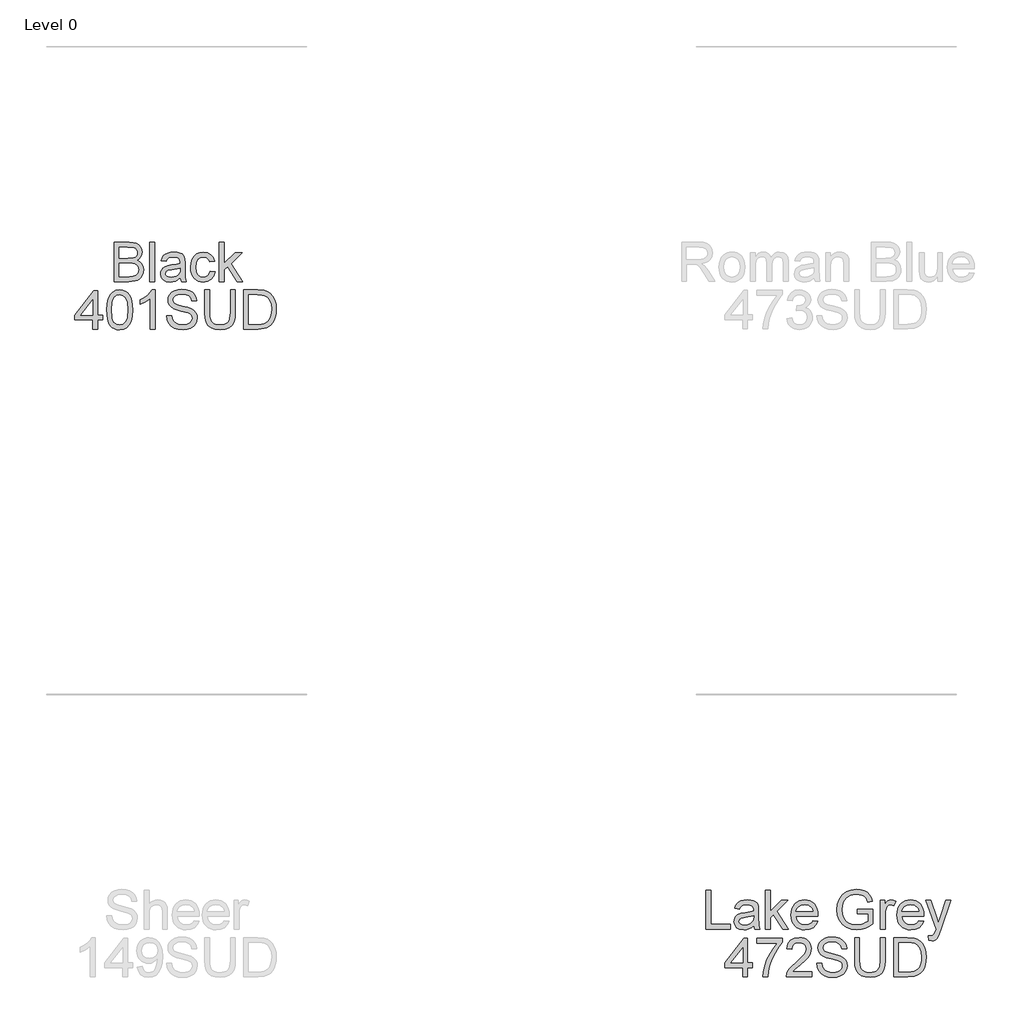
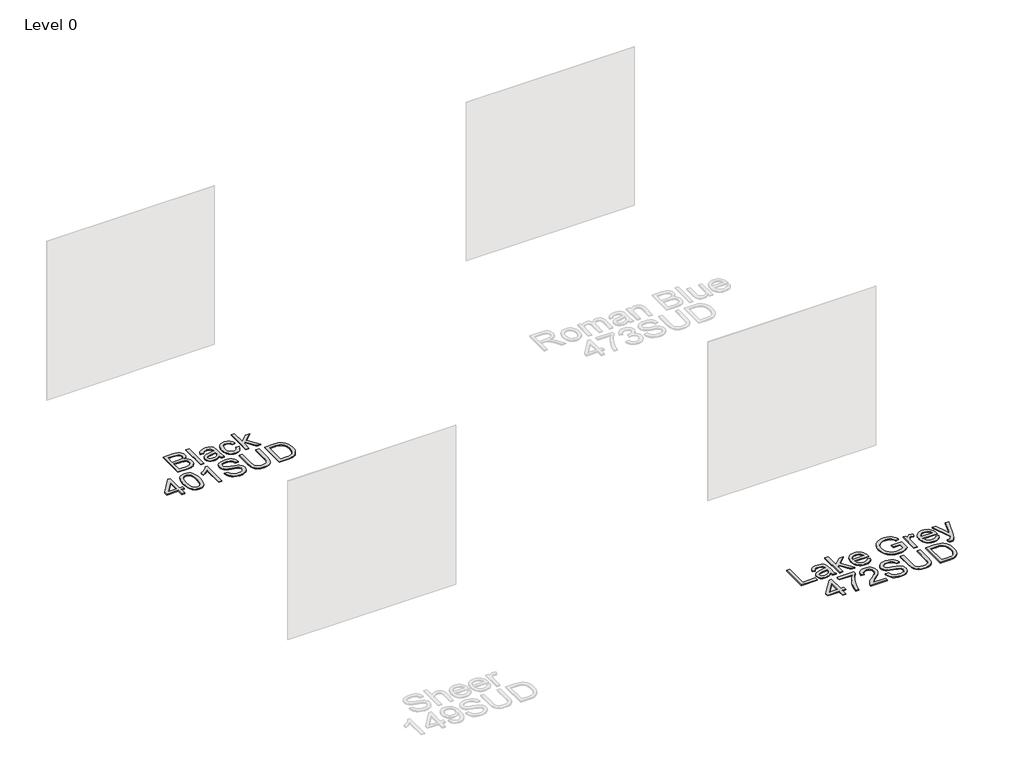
# One storey, part 15 of 37: 2 proxies.
"""IFC4 building model written with IfcOpenShell, lengths in millimetres."""

import ifcopenshell
import ifcopenshell.guid

model = None  # the IFC model being written
_history = None  # IfcOwnerHistory: only IFC2X3 demands one
_inside = {}  # id of a spatial element -> (the spatial element, [elements in it])
_under = {}  # id of a project, library or spatial element -> (it, [spatial elements below it])
_declared = {}  # id of a project -> (the project, [libraries it declares])
_typed = {}  # id of a type object -> (the type object, [elements of that type])
_made_of = {}  # id of a material, layer set ... -> (it, [elements and type objects made of it])


def new_model(schema):
    """Start an empty IFC model of exactly this schema.

    Asked for "IFC4X3", IfcOpenShell would pick the latest addendum, in which some entities
    have other attributes; the version numbers below select the first issue.
    IFC2X3 requires an IfcOwnerHistory on every rooted entity: one is made here for all.
    """
    global model, _history
    if schema == "IFC4X3":
        model = ifcopenshell.file(schema_version=(4, 3, 0, 0))
    else:
        model = ifcopenshell.file(schema=schema)
    _inside.clear()
    _under.clear()
    _declared.clear()
    _typed.clear()
    _made_of.clear()
    _history = None
    if model.schema == "IFC2X3":
        org = make("IfcOrganization", Name="unknown")
        user = make(
            "IfcPersonAndOrganization",
            ThePerson=make("IfcPerson", FamilyName="unknown"),
            TheOrganization=org,
        )
        app = make(
            "IfcApplication",
            ApplicationDeveloper=org,
            Version="unknown",
            ApplicationFullName="unknown",
            ApplicationIdentifier="unknown",
        )
        _history = make(
            "IfcOwnerHistory",
            OwningUser=user,
            OwningApplication=app,
            ChangeAction="ADDED",
            CreationDate=0,
        )
    return model


def make(cls, **values):
    """One entity of the class cls with the attributes given. An attribute that is None is left unset."""
    return model.create_entity(
        cls, **{name: value for name, value in values.items() if value is not None}
    )


def rooted(cls, **values):
    """An entity with a GlobalId (a new one), such as an element, a storey or a relation."""
    return make(cls, GlobalId=ifcopenshell.guid.new(), OwnerHistory=_history, **values)


def si_unit(unit_type, name, prefix=None):
    """IfcSIUnit, for example si_unit("LENGTHUNIT", "METRE", prefix="MILLI")."""
    return make("IfcSIUnit", UnitType=unit_type, Prefix=prefix, Name=name)


def assignment(units):
    """IfcUnitAssignment: the units of a project."""
    return None if units is None else make("IfcUnitAssignment", Units=units)


def point(xyz):
    """IfcCartesianPoint."""
    return None if xyz is None else make("IfcCartesianPoint", Coordinates=xyz)


def direction(xyz):
    """IfcDirection."""
    return None if xyz is None else make("IfcDirection", DirectionRatios=xyz)


def frame(location, z_axis=None, x_axis=None):
    """IfcAxis2Placement3D, a coordinate frame: its origin and axes. An axis left out is left unset."""
    return make(
        "IfcAxis2Placement3D",
        Location=point(location),
        Axis=direction(z_axis),
        RefDirection=direction(x_axis),
    )


def origin():
    """The frame at (0, 0, 0) with its axes left unset."""
    return frame((0.0, 0.0, 0.0))


def origin_with_axes():
    """The frame at (0, 0, 0) with the z axis (0, 0, 1) and the x axis (1, 0, 0) written out."""
    return frame((0.0, 0.0, 0.0), z_axis=(0.0, 0.0, 1.0), x_axis=(1.0, 0.0, 0.0))


def place(relative_to, where):
    """IfcLocalPlacement: puts the frame where relative to a parent placement (None: the world)."""
    return make(
        "IfcLocalPlacement", PlacementRelTo=relative_to, RelativePlacement=where
    )


def context(
    kind, dimensions, precision=None, world=None, true_north=None, identifier=None
):
    """IfcGeometricRepresentationContext, for example the 3D "Model" context."""
    return make(
        "IfcGeometricRepresentationContext",
        ContextIdentifier=identifier,
        ContextType=kind,
        CoordinateSpaceDimension=dimensions,
        Precision=precision,
        WorldCoordinateSystem=world,
        TrueNorth=true_north,
    )


def project(units=None, contexts=None):
    """IfcProject with its units and contexts."""
    return rooted(
        "IfcProject",
        Name="project",
        RepresentationContexts=contexts,
        UnitsInContext=assignment(units),
    )


def spatial(cls, under=None, at=None, **own):
    """A site, building, storey or space (cls), placed at a placement, below another one or the project."""
    s = rooted(cls, ObjectPlacement=at, **own)
    if under is not None:
        _under.setdefault(under.id(), (under, []))[1].append(s)
    return s


def polyline(points):
    """IfcPolyline through the points."""
    return make("IfcPolyline", Points=[point(p) for p in points])


def outline(outer, holes=None, kind="AREA"):
    """IfcArbitraryClosedProfileDef: a profile drawn as a closed curve; with holes, ...WithVoids."""
    if holes is None:
        return make("IfcArbitraryClosedProfileDef", ProfileType=kind, OuterCurve=outer)
    return make(
        "IfcArbitraryProfileDefWithVoids",
        ProfileType=kind,
        OuterCurve=outer,
        InnerCurves=holes,
    )


def extrude(swept, where, along, depth):
    """IfcExtrudedAreaSolid: the profile swept, set in the frame where, extruded along a direction by depth."""
    return make(
        "IfcExtrudedAreaSolid",
        SweptArea=swept,
        Position=where,
        ExtrudedDirection=direction(along),
        Depth=depth,
    )


def shape(context_of_items, identifier, shape_type, items):
    """IfcShapeRepresentation: the items that make up one representation, for example the "Body"."""
    return make(
        "IfcShapeRepresentation",
        ContextOfItems=context_of_items,
        RepresentationIdentifier=identifier,
        RepresentationType=shape_type,
        Items=items,
    )


def made_of(thing, what):
    """Note that an element or type object is made of a material, layer set ...; save() writes the relation."""
    if what is not None:
        _made_of.setdefault(what.id(), (what, []))[1].append(thing)
    return thing


def element(
    cls,
    number,
    at=None,
    inside=None,
    cuts=None,
    type_object=None,
    material=None,
    context=None,
    identifier="Body",
    shape_type=None,
    held_by="IfcProductDefinitionShape",
    body=None,
    shapes=None,
    **own,
):
    """One element of the class cls, such as IfcWall. Its Tag is "e" and its number.

    at: its placement. inside: the storey or other place that contains it. cuts: it is an
    opening in that element (IfcRelVoidsElement). A single representation is given by context,
    identifier, shape_type and body (its items); several are given by shapes. held_by: the class
    of the entity that holds the representations. save() writes the other relations.
    """
    e = rooted(cls, Tag="e%d" % number, ObjectPlacement=at, **own)
    if body is not None:
        shapes = [shape(context, identifier, shape_type, body)]
    if shapes is not None:
        e.Representation = make(held_by, Representations=shapes)
    if inside is not None:
        _inside.setdefault(inside.id(), (inside, []))[1].append(e)
    if cuts is not None:
        rooted(
            "IfcRelVoidsElement", RelatingBuildingElement=cuts, RelatedOpeningElement=e
        )
    if type_object is not None:
        _typed.setdefault(type_object.id(), (type_object, []))[1].append(e)
    return made_of(e, material)


def aggregate(whole, parts):
    """IfcRelAggregates: a whole, such as a stair, and the parts it consists of."""
    return rooted("IfcRelAggregates", RelatingObject=whole, RelatedObjects=parts)


def save(model, path):
    """Write the relations noted so far, then the file.

    IfcRelAggregates (storeys below a building ...), IfcRelContainedInSpatialStructure (elements
    in a storey), IfcRelDefinesByType, IfcRelAssociatesMaterial and IfcRelDeclares: one each for
    every whole, place, type object, material and project.
    """
    for whole, parts in _under.values():
        aggregate(whole, parts)
    for where, things in _inside.values():
        rooted(
            "IfcRelContainedInSpatialStructure",
            RelatedElements=things,
            RelatingStructure=where,
        )
    for kind, things in _typed.values():
        rooted("IfcRelDefinesByType", RelatedObjects=things, RelatingType=kind)
    for what, things in _made_of.values():
        rooted("IfcRelAssociatesMaterial", RelatedObjects=things, RelatingMaterial=what)
    for by, libraries in _declared.values():
        rooted("IfcRelDeclares", RelatingContext=by, RelatedDefinitions=libraries)
    model.write(path)


model = new_model("IFC4")

# Units and contexts
model_context = context("Model", 3, world=origin())
ifc_project = project(units=[si_unit("LENGTHUNIT", "METRE", prefix="MILLI")], contexts=[model_context])

# Site, building, storey
site = spatial("IfcSite", under=ifc_project)
building = spatial("IfcBuilding", under=site)
storey = spatial("IfcBuildingStorey", under=building, Name="Level 0", Elevation=0.0)

# Proxies
placement = place(None, origin())
element("IfcBuildingElementProxy", 1, Name="300mm Arial", ObjectType="300mm Arial", at=placement, inside=storey, context=model_context, shape_type="SweptSolid", body=[
    extrude(outline(polyline([(69.0352108, -41912.860494), (69.0352108, -41611.4915635), (184.0351225, -41611.4915635), (215.663777, -41613.7080526), (240.3578559, -41620.3575196), (259.2853846, -41631.6055116), (273.6143883, -41647.6175755), (282.6366942, -41666.4531336), (285.6441295, -41686.1716086), (283.1149408, -41704.317388), (275.5273747, -41721.3779155), (262.8262488, -41736.3047274), (244.9563809, -41748.0493601), (266.3027337, -41759.1961846), (282.0756742, -41776.1555446), (291.81535, -41797.8054), (295.0619086, -41823.0237108), (292.8454196, -41844.0389697), (286.1959525, -41863.5275184), (276.2723357, -41880.1006023), (264.2333974, -41892.3694668), (249.4905265, -41901.253817), (231.4551117, -41907.6733578), (183.1522057, -41912.860494), (69.0352108, -41912.860494)]), holes=[polyline([(106.7063271, -41733.9226915), (175.5002602, -41733.9226915), (215.6729741, -41730.68533), (229.7352633, -41725.1027207), (239.8428212, -41716.7426024), (245.9404652, -41705.7337336), (247.9730132, -41692.2048733), (246.078421, -41679.071486), (240.3946441, -41667.630356), (231.1792002, -41658.7000206), (218.6896064, -41653.0990172), (170.2763359, -41649.1626798), (106.7063271, -41649.1626798), (106.7063271, -41733.9226915)]), polyline([(106.7063271, -41875.1893777), (183.9615461, -41875.1893777), (211.9205777, -41873.7178497), (235.57539, -41865.5140812), (251.247163, -41848.7754504), (255.854885, -41836.9480443), (257.3907923, -41823.3915928), (255.5881705, -41807.6462434), (250.1803052, -41794.1081859), (240.734935, -41783.5223815), (226.8197985, -41776.6337912), (207.1105206, -41772.8538037), (180.2827261, -41771.5938078), (106.7063271, -41771.5938078), (106.7063271, -41875.1893777)])]), origin_with_axes(), (0.0, 0.0, 1.0), 10.0),
    extrude(outline(polyline([(342.150804, -41912.860494), (342.150804, -41611.4915635), (379.8219203, -41611.4915635), (379.8219203, -41912.860494), (342.150804, -41912.860494)])), origin_with_axes(), (0.0, 0.0, 1.0), 10.0),
    extrude(outline(polyline([(577.5952809, -41884.6071568), (559.5966543, -41900.0398064), (541.0645988, -41910.1381672), (521.5760501, -41915.7115794), (500.7079439, -41917.5693835), (469.2264422, -41913.0996173), (446.0038912, -41899.6903186), (431.6840846, -41879.3280501), (426.9108157, -41853.9993748), (428.7134375, -41838.3827841), (434.1213028, -41824.2009331), (442.463027, -41812.0608273), (453.0672256, -41802.5694718), (479.4443646, -41790.2086368), (512.0387094, -41784.5432541), (550.5559543, -41778.5835657), (577.3745517, -41771.5938078), (577.5952809, -41763.2060983), (575.0017129, -41746.3938912), (567.2210087, -41735.3942195), (549.8201903, -41727.2272392), (525.5767668, -41724.5049125), (503.1359651, -41726.3167313), (487.4641921, -41731.7521878), (476.7772201, -41741.8045633), (469.2908215, -41757.4671392), (431.6197052, -41752.7582497), (438.1588077, -41732.156858), (447.9168776, -41715.9700502), (461.8044229, -41703.590821), (480.7319516, -41694.4121652), (503.8809261, -41688.7283884), (530.4328091, -41686.8337961), (555.8994403, -41688.5076592), (576.0869647, -41693.5292485), (591.3080823, -41701.0800264), (601.8754926, -41710.3414556), (608.8836446, -41721.7917827), (613.4269873, -41735.9092543), (615.2663972, -41768.8714811), (615.2663972, -41815.7396473), (617.1793836, -41881.1858542), (624.6841763, -41912.860494), (587.01306, -41912.860494), (577.5952809, -41884.6071568)]), holes=[polyline([(577.5952809, -41809.2649241), (516.8211753, -41820.8164188), (484.4107715, -41826.9232599), (469.7322799, -41836.8560738), (464.581932, -41851.3506244), (467.3870322, -41862.5526311), (475.8023329, -41871.7312869), (489.6438929, -41877.8565221), (508.7277714, -41879.8982672), (528.9612812, -41877.64499), (546.8403461, -41870.8851583), (561.3348967, -41860.9247533), (571.4148634, -41849.069756), (575.8846296, -41836.8560738), (577.3745517, -41819.933502), (577.5952809, -41809.2649241)])]), origin_with_axes(), (0.0, 0.0, 1.0), 10.0),
    extrude(outline(polyline([(808.3308683, -41832.8093718), (846.0019846, -41837.5182614), (835.4989536, -41871.0231141), (815.7620846, -41896.3425924), (788.6491816, -41912.2626857), (756.0180486, -41917.5693835), (734.8901257, -41915.7184772), (715.9465023, -41910.1657584), (699.1871781, -41900.9112269), (684.6121533, -41887.9548829), (672.8146376, -41871.5404481), (664.3878406, -41851.9116444), (659.3317625, -41829.0684718), (657.6464031, -41803.0109302), (660.5250797, -41769.4876834), (669.1611095, -41740.4342028), (683.6924483, -41716.9725286), (704.2570519, -41700.2247008), (728.8591603, -41690.1815223), (755.5030138, -41686.8337961), (787.3340034, -41691.4323211), (812.7822404, -41705.2278959), (831.0383844, -41727.4847566), (841.2930951, -41757.4671392), (803.6219788, -41762.1760288), (796.7885707, -41745.7409006), (786.147584, -41733.9594797), (772.2876298, -41726.8685543), (755.7973194, -41724.5049125), (731.4527284, -41729.1586197), (712.1297266, -41743.1197414), (699.5205712, -41767.1424357), (695.3175194, -41801.9808606), (699.4286007, -41837.2883351), (711.7618446, -41861.3938029), (730.7353585, -41875.2721511), (754.7672498, -41879.8982672), (774.2741926, -41877.0103936), (790.2678623, -41868.3467726), (801.9021304, -41853.6866751), (808.3308683, -41832.8093718)])), origin_with_axes(), (0.0, 0.0, 1.0), 10.0),
    extrude(outline(polyline([(878.9642114, -41912.860494), (878.9642114, -41611.4915635), (916.6353277, -41611.4915635), (916.6353277, -41773.4332178), (1001.1010338, -41691.5426857), (1053.1931243, -41691.5426857), (967.6973486, -41774.4632874), (1057.9020138, -41912.860494), (1013.9033272, -41912.860494), (940.6948102, -41800.6564855), (916.6353277, -41823.9802039), (916.6353277, -41912.860494), (878.9642114, -41912.860494)])), origin_with_axes(), (0.0, 0.0, 1.0), 10.0),
    extrude(outline(polyline([(-95.775923, -42278.7849475), (-95.775923, -42208.1516044), (-232.3337197, -42208.1516044), (-232.3337197, -42170.4804881), (-86.358144, -41982.1249066), (-58.1048067, -41982.1249066), (-58.1048067, -42170.4804881), (-20.4336904, -42170.4804881), (-20.4336904, -42208.1516044), (-58.1048067, -42208.1516044), (-58.1048067, -42278.7849475), (-95.775923, -42278.7849475)]), holes=[polyline([(-95.775923, -42170.4804881), (-95.775923, -42054.0826249), (-185.9805883, -42170.4804881), (-95.775923, -42170.4804881)])]), origin_with_axes(), (0.0, 0.0, 1.0), 10.0),
    extrude(outline(polyline([(12.5285363, -42130.5285035), (15.2968483, -42082.2899768), (23.6017844, -42043.8187172), (37.360571, -42014.5261133), (56.4904348, -41993.8235541), (81.1293314, -41981.5179013), (111.4152166, -41977.4160171), (134.6285705, -41979.8440382), (155.4139033, -41987.1281017), (172.7963275, -41998.983099), (185.8009561, -42015.1239216), (195.6234053, -42035.4126136), (203.4592918, -42059.7112194), (208.5912457, -42090.5673217), (210.3018969, -42130.5285035), (207.5611761, -42178.4911186), (199.3390135, -42216.8704077), (185.6630003, -42246.1906027), (166.5607277, -42266.9759355), (141.8666488, -42279.3643617), (111.4152166, -42283.4938371), (90.6666721, -42281.7004123), (72.2725723, -42276.3201381), (56.2329174, -42267.3530145), (42.5477071, -42254.7990414), (29.4143199, -42232.1053209), (20.033329, -42203.828991), (14.4047345, -42169.9700519), (12.5285363, -42130.5285035)]), holes=[polyline([(50.1996526, -42130.4549271), (54.6142366, -42189.7115194), (60.1324665, -42209.9795181), (67.8579884, -42224.0073184), (87.5764633, -42240.3688702), (111.4152166, -42245.8227207), (135.2539699, -42240.3504761), (154.9724449, -42223.933742), (162.6979668, -42209.8829491), (168.2161967, -42189.6195489), (172.6307806, -42130.4549271), (168.3633495, -42072.5319069), (163.0290606, -42052.3305869), (155.5610561, -42037.9693935), (135.8793693, -42020.8076984), (110.9737582, -42015.0871334), (87.3925223, -42020.1271167), (68.4465996, -42035.2470667), (60.4635603, -42050.8820515), (54.7613894, -42071.9616898), (50.1996526, -42130.4549271)])]), origin_with_axes(), (0.0, 0.0, 1.0), 10.0),
    extrude(outline(polyline([(384.5308099, -42278.7849475), (346.8596935, -42278.7849475), (346.8596935, -42043.9290818), (311.17514, -42069.3497277), (271.5174609, -42088.3692268), (271.5174609, -42052.7582497), (301.1043704, -42036.6634124), (326.7365484, -42017.5151545), (346.942467, -41997.1528861), (360.2505982, -41977.4160171), (384.5308099, -41977.4160171), (384.5308099, -42278.7849475)])), origin_with_axes(), (0.0, 0.0, 1.0), 10.0),
    extrude(outline(polyline([(473.9997111, -42175.1893777), (511.6708274, -42175.1893777), (515.9934408, -42196.0942721), (523.8109332, -42212.8972822), (536.0062214, -42226.2330045), (553.462222, -42236.7360355), (574.7993778, -42243.5510494), (598.638131, -42245.8227207), (619.6257989, -42244.1028724), (638.0015045, -42238.9433274), (652.8915283, -42230.7763471), (663.4221504, -42220.0341929), (669.6853414, -42207.700949), (671.7730717, -42194.7606998), (670.2095732, -42182.1515444), (665.5190778, -42171.2530403), (655.9909341, -42161.9548229), (639.9144909, -42154.1465276), (585.0632854, -42139.7623415), (549.0568351, -42130.2433949), (526.0182252, -42121.1843008), (507.2654405, -42108.510766), (493.9757034, -42093.1516928), (486.0570435, -42075.4381747), (483.4174902, -42055.7013056), (486.6824429, -42033.637583), (496.477301, -42013.0637824), (512.5445471, -41995.6261758), (534.6266639, -41982.9710352), (561.1325616, -41975.2731044), (590.4711508, -41972.7071275), (622.2561551, -41975.3926661), (650.068034, -41983.4492818), (672.9135059, -41996.7114277), (689.7992895, -42015.013557), (700.4862614, -42037.2152354), (704.7352985, -42062.1760288), (667.0641821, -42062.1760288), (660.1480006, -42039.6984389), (645.7270264, -42023.4748429), (623.1942542, -42013.6523936), (591.9426787, -42010.3782438), (559.9553393, -42013.6156054), (538.0111782, -42023.3276901), (525.3192494, -42037.6199056), (521.0886065, -42054.5976597), (524.0868447, -42069.0738162), (533.0815595, -42080.7172813), (554.3451388, -42091.1283418), (594.5914291, -42101.7601314), (636.1253064, -42111.8584922), (661.2516466, -42120.669266), (682.7267581, -42134.3360821), (697.7087523, -42151.2034716), (706.5103291, -42171.0874934), (709.444188, -42193.8042066), (706.0688707, -42217.0267576), (695.9429188, -42238.869751), (679.4801995, -42257.668521), (657.0945801, -42271.7584014), (630.1748151, -42280.5599781), (600.109659, -42283.4938371), (563.2018979, -42280.3300519), (532.8240421, -42270.8386964), (508.6266039, -42254.9829824), (490.2600953, -42232.7261217), (478.4694773, -42205.6132187), (473.9997111, -42175.1893777)])), origin_with_axes(), (0.0, 0.0, 1.0), 10.0),
    extrude(outline(polyline([(963.7242231, -41977.4160171), (1001.3953394, -41977.4160171), (1001.3953394, -42151.277048), (998.8385595, -42191.9923878), (991.1682199, -42223.3451308), (976.8392162, -42247.533372), (954.306444, -42266.7552063), (923.514721, -42279.3091794), (884.4088649, -42283.4938371), (846.1583345, -42279.8518053), (815.5781436, -42268.92571), (792.6590953, -42251.0926303), (777.3919925, -42226.7296452), (768.811145, -42194.052527), (765.9508625, -42151.277048), (765.9508625, -41977.4160171), (803.6219788, -41977.4160171), (803.6219788, -42149.9526728), (805.4797828, -42183.8070134), (811.0531951, -42207.3790523), (821.1515558, -42223.7038158), (836.5842055, -42235.8163305), (856.7073507, -42243.3211232), (880.8771977, -42245.8227207), (919.1921075, -42240.8747079), (933.5349068, -42234.6896919), (944.6679357, -42226.0306694), (953.0050614, -42213.8537754), (958.9601512, -42197.1151446), (963.7242231, -42149.9526728), (963.7242231, -41977.4160171)])), origin_with_axes(), (0.0, 0.0, 1.0), 10.0),
    extrude(outline(polyline([(1067.3197929, -42278.7849475), (1067.3197929, -41977.4160171), (1171.2832447, -41977.4160171), (1225.0675924, -41981.7570246), (1249.0902867, -41990.12634), (1269.3605847, -42003.3149095), (1290.2010997, -42026.270746), (1305.0451382, -42054.8183889), (1313.9294884, -42088.406015), (1316.8909384, -42126.4818015), (1314.8859816, -42158.8278259), (1308.8711109, -42187.2926953), (1299.7108493, -42211.5269217), (1288.2697192, -42231.1810173), (1275.0995438, -42246.6964405), (1260.752146, -42258.5146496), (1244.2802296, -42267.2794381), (1224.7364986, -42273.6345996), (1176.2864399, -42278.7849475), (1067.3197929, -42278.7849475)]), holes=[polyline([(1104.9909092, -42241.1138312), (1171.6511267, -42241.1138312), (1199.2238823, -42239.7526678), (1220.1379737, -42235.6691777), (1235.9201113, -42229.1024841), (1248.0970053, -42220.2917103), (1261.1844073, -42203.9853408), (1271.0160536, -42182.8781114), (1277.16888, -42156.8780514), (1279.2198221, -42125.8931903), (1275.2007113, -42084.8375597), (1263.1433789, -42054.5240833), (1245.3286933, -42033.7019623), (1224.0375228, -42021.1203981), (1202.3692733, -42016.5954496), (1170.6210571, -42015.0871334), (1104.9909092, -42015.0871334), (1104.9909092, -42241.1138312)])]), origin_with_axes(), (0.0, 0.0, 1.0), 10.0),
])
element("IfcBuildingElementProxy", 2, Name="300mm Arial", ObjectType="300mm Arial", at=placement, inside=storey, context=model_context, shape_type="SweptSolid", body=[
    extrude(outline(polyline([(4621.6907047, -46892.860494), (4621.6907047, -46591.4915635), (4659.361821, -46591.4915635), (4659.361821, -46855.1893777), (4810.0462862, -46855.1893777), (4810.0462862, -46892.860494), (4621.6907047, -46892.860494)])), origin_with_axes(), (0.0, 0.0, 1.0), 10.0),
    extrude(outline(polyline([(4988.9840886, -46864.6071568), (4970.985462, -46880.0398064), (4952.4534065, -46890.1381672), (4932.9648578, -46895.7115794), (4912.0967516, -46897.5693835), (4880.6152499, -46893.0996173), (4857.392699, -46879.6903186), (4843.0728923, -46859.3280501), (4838.2996234, -46833.9993748), (4840.1022452, -46818.3827841), (4845.5101105, -46804.2009331), (4853.8518348, -46792.0608273), (4864.4560333, -46782.5694718), (4890.8331723, -46770.2086368), (4923.4275171, -46764.5432541), (4961.944762, -46758.5835657), (4988.7633594, -46751.5938078), (4988.9840886, -46743.2060983), (4986.3905206, -46726.3938912), (4978.6098164, -46715.3942195), (4961.208998, -46707.2272392), (4936.9655745, -46704.5049125), (4914.5247728, -46706.3167313), (4898.8529998, -46711.7521878), (4888.1660279, -46721.8045633), (4880.6796293, -46737.4671392), (4843.008513, -46732.7582497), (4849.5476154, -46712.1568579), (4859.3056853, -46695.9700502), (4873.1932307, -46683.590821), (4892.1207593, -46674.4121652), (4915.2697339, -46668.7283884), (4941.8216169, -46666.8337961), (4967.288248, -46668.5076592), (4987.4757725, -46673.5292485), (5002.69689, -46681.0800264), (5013.2643003, -46690.3414556), (5020.2724523, -46701.7917827), (5024.815795, -46715.9092543), (5026.6552049, -46748.8714811), (5026.6552049, -46795.7396473), (5028.5681913, -46861.1858542), (5036.072984, -46892.860494), (4998.4018677, -46892.860494), (4988.9840886, -46864.6071568)]), holes=[polyline([(4988.9840886, -46789.2649241), (4928.209983, -46800.8164188), (4895.7995793, -46806.9232599), (4881.1210877, -46816.8560738), (4875.9707397, -46831.3506244), (4878.7758399, -46842.5526311), (4887.1911406, -46851.7312869), (4901.0327006, -46857.8565221), (4920.1165791, -46859.8982672), (4940.3500889, -46857.64499), (4958.2291538, -46850.8851583), (4972.7237045, -46840.9247533), (4982.8036711, -46829.069756), (4987.2734374, -46816.8560738), (4988.7633594, -46799.933502), (4988.9840886, -46789.2649241)])]), origin_with_axes(), (0.0, 0.0, 1.0), 10.0),
    extrude(outline(polyline([(5078.4529899, -46892.860494), (5078.4529899, -46591.4915635), (5116.1241062, -46591.4915635), (5116.1241062, -46753.4332178), (5200.5898123, -46671.5426857), (5252.6819028, -46671.5426857), (5167.1861271, -46754.4632874), (5257.3907923, -46892.860494), (5213.3921057, -46892.860494), (5140.1835887, -46780.6564855), (5116.1241062, -46803.9802039), (5116.1241062, -46892.860494), (5078.4529899, -46892.860494)])), origin_with_axes(), (0.0, 0.0, 1.0), 10.0),
    extrude(outline(polyline([(5445.3049155, -46826.9360404), (5482.2402678, -46831.64493), (5468.9321366, -46859.4752029), (5447.6961484, -46880.2789297), (5419.0105499, -46893.2467701), (5383.3535875, -46897.5693835), (5359.9792852, -46895.7046817), (5339.1525657, -46890.1105761), (5320.8734291, -46880.7870668), (5305.1418753, -46867.7341537), (5292.4913332, -46851.3151204), (5283.4552317, -46831.8932503), (5278.0335708, -46809.4685435), (5276.2263505, -46784.0409998), (5278.0519649, -46757.7512327), (5283.5288081, -46734.5792656), (5292.6568801, -46714.5250983), (5305.4361809, -46697.5887309), (5321.126348, -46684.133447), (5338.9870189, -46674.5225298), (5359.0181935, -46668.7559796), (5381.2198719, -46666.8337961), (5402.7064797, -46668.751381), (5422.1375468, -46674.5041357), (5439.5130733, -46684.0920602), (5454.8330591, -46697.5151545), (5467.3387477, -46714.4147337), (5476.2713824, -46734.4321128), (5481.6309632, -46757.5672917), (5483.4174902, -46783.8202706), (5483.196761, -46793.9738137), (5313.8974668, -46793.9738137), (5320.4181751, -46822.1719686), (5335.5657163, -46842.902119), (5357.4271039, -46855.6492302), (5384.0893515, -46859.8982672), (5404.1389202, -46857.9300985), (5421.0247038, -46852.0255925), (5434.7467022, -46841.8168671), (5445.3049155, -46826.9360404)]), holes=[polyline([(5313.8974668, -46756.3026974), (5445.7463739, -46756.3026974), (5440.6512082, -46736.4002814), (5430.663212, -46722.1632482), (5408.7006569, -46708.9194964), (5381.0727191, -46704.5049125), (5355.6796644, -46708.0273826), (5334.6827995, -46718.5947929), (5320.0870813, -46735.0667092), (5313.8974668, -46756.3026974)])]), origin_with_axes(), (0.0, 0.0, 1.0), 10.0),
    extrude(outline(polyline([(5784.7864206, -46775.1382555), (5784.7864206, -46737.4671392), (5907.2175486, -46737.4671392), (5907.2175486, -46850.1126061), (5877.4650922, -46870.8059684), (5846.7745368, -46885.6500069), (5815.2194587, -46894.5895394), (5782.8734342, -46897.5693835), (5740.61299, -46892.8329028), (5702.4176419, -46878.6234608), (5670.6878198, -46855.437698), (5647.8239538, -46823.7722553), (5634.0007878, -46785.7884393), (5629.3930658, -46743.6475567), (5633.9823937, -46701.2031715), (5647.7503774, -46661.7202364), (5670.1267998, -46628.6016598), (5700.5414437, -46605.2503502), (5737.5871606, -46591.399593), (5779.8568019, -46586.782674), (5810.8876482, -46589.4590155), (5838.7914975, -46597.4880401), (5862.2899599, -46610.2903335), (5880.1046456, -46627.2864817), (5893.284018, -46649.295022), (5902.8765411, -46677.134492), (5868.1484807, -46686.9201531), (5860.3953677, -46667.0637224), (5850.9683915, -46652.0817281), (5838.4971919, -46640.7877509), (5821.6114083, -46631.9953712), (5801.4790661, -46626.3391855), (5779.2681907, -46624.4537903), (5753.2681307, -46626.4863383), (5731.0388611, -46632.5839824), (5712.6631555, -46641.9833674), (5698.2237871, -46653.9211381), (5678.836406, -46682.9470275), (5670.0072381, -46711.3843058), (5667.0641821, -46742.1024524), (5670.6050464, -46778.1272967), (5681.227639, -46807.7693885), (5698.6100632, -46830.8171955), (5722.4304224, -46847.0591856), (5750.3066806, -46856.6884968), (5779.8568019, -46859.8982672), (5805.9488324, -46857.4794431), (5831.3970694, -46850.2229707), (5853.4975803, -46840.2257775), (5869.5464323, -46829.5847908), (5869.5464323, -46775.1382555), (5784.7864206, -46775.1382555)])), origin_with_axes(), (0.0, 0.0, 1.0), 10.0),
    extrude(outline(polyline([(5963.7242231, -46892.860494), (5963.7242231, -46671.5426857), (5996.6864498, -46671.5426857), (5996.6864498, -46704.2841833), (6008.8633439, -46685.3014723), (6020.0837447, -46674.1178596), (6031.3409338, -46668.654812), (6043.6281924, -46666.8337961), (6062.3901742, -46669.7400639), (6081.4464615, -46678.4588672), (6068.8648973, -46712.2304343), (6055.6211455, -46706.4362929), (6042.3773936, -46704.5049125), (6031.1294016, -46706.3627165), (6021.0770261, -46711.9361288), (6012.9560311, -46720.8020848), (6007.5021805, -46732.5375205), (6002.9220496, -46753.5803706), (6001.3953394, -46776.5362071), (6001.3953394, -46892.860494), (5963.7242231, -46892.860494)])), origin_with_axes(), (0.0, 0.0, 1.0), 10.0),
    extrude(outline(polyline([(6259.9428056, -46826.9360404), (6296.8781579, -46831.64493), (6283.5700267, -46859.4752029), (6262.3340385, -46880.2789297), (6233.64844, -46893.2467701), (6197.9914776, -46897.5693835), (6174.6171753, -46895.7046817), (6153.7904559, -46890.1105761), (6135.5113192, -46880.7870668), (6119.7797654, -46867.7341537), (6107.1292233, -46851.3151204), (6098.0931218, -46831.8932503), (6092.6714609, -46809.4685435), (6090.8642406, -46784.0409998), (6092.689855, -46757.7512327), (6098.1666982, -46734.5792656), (6107.2947702, -46714.5250983), (6120.074071, -46697.5887309), (6135.7642381, -46684.133447), (6153.624909, -46674.5225298), (6173.6560836, -46668.7559796), (6195.857762, -46666.8337961), (6217.3443698, -46668.751381), (6236.7754369, -46674.5041357), (6254.1509634, -46684.0920602), (6269.4709493, -46697.5151545), (6281.9766378, -46714.4147337), (6290.9092725, -46734.4321128), (6296.2688533, -46757.5672917), (6298.0553803, -46783.8202706), (6297.8346511, -46793.9738137), (6128.5353569, -46793.9738137), (6135.0560653, -46822.1719686), (6150.2036064, -46842.902119), (6172.064994, -46855.6492302), (6198.7272416, -46859.8982672), (6218.7768103, -46857.9300985), (6235.6625939, -46852.0255925), (6249.3845923, -46841.8168671), (6259.9428056, -46826.9360404)]), holes=[polyline([(6128.5353569, -46756.3026974), (6260.384264, -46756.3026974), (6255.2890983, -46736.4002814), (6245.3011022, -46722.1632482), (6223.3385471, -46708.9194964), (6195.7106092, -46704.5049125), (6170.3175545, -46708.0273826), (6149.3206896, -46718.5947929), (6134.7249715, -46735.0667092), (6128.5353569, -46756.3026974)])]), origin_with_axes(), (0.0, 0.0, 1.0), 10.0),
    extrude(outline(polyline([(6335.7264966, -46977.6205057), (6331.017607, -46941.3473409), (6350.1474708, -46944.6582789), (6368.0265358, -46940.5012124), (6378.9894192, -46928.9129295), (6389.2901151, -46901.1746271), (6392.233171, -46892.0511536), (6312.1820489, -46671.5426857), (6351.9133044, -46671.5426857), (6394.3668866, -46794.4152721), (6409.1557428, -46843.5643066), (6423.944599, -46800.1542312), (6467.5754037, -46671.5426857), (6507.0123535, -46671.5426857), (6429.9778637, -46898.1579947), (6409.9650832, -46947.3070293), (6399.7195696, -46962.9971964), (6388.1128927, -46973.8681093), (6374.6300176, -46980.2140737), (6358.7559095, -46982.3293952), (6335.7264966, -46977.6205057)])), origin_with_axes(), (0.0, 0.0, 1.0), 10.0),
    extrude(outline(polyline([(4904.224077, -47258.7849475), (4904.224077, -47188.1516044), (4767.6662803, -47188.1516044), (4767.6662803, -47150.4804881), (4913.641856, -46962.1249066), (4941.8951933, -46962.1249066), (4941.8951933, -47150.4804881), (4979.5663096, -47150.4804881), (4979.5663096, -47188.1516044), (4941.8951933, -47188.1516044), (4941.8951933, -47258.7849475), (4904.224077, -47258.7849475)]), holes=[polyline([(4904.224077, -47150.4804881), (4904.224077, -47034.0826249), (4814.0194117, -47150.4804881), (4904.224077, -47150.4804881)])]), origin_with_axes(), (0.0, 0.0, 1.0), 10.0),
    extrude(outline(polyline([(5012.5285363, -46999.7960229), (5012.5285363, -46962.1249066), (5210.3018969, -46962.1249066), (5210.3018969, -46992.5855358), (5182.1129391, -47028.2608923), (5154.1998927, -47073.6299393), (5129.5793901, -47124.5540045), (5111.2680638, -47176.8944154), (5102.2917432, -47216.0554538), (5097.288548, -47258.7849475), (5059.6174317, -47258.7849475), (5063.6917248, -47219.9550029), (5074.5902289, -47173.8042066), (5092.0186384, -47124.8850983), (5115.6826478, -47077.7502177), (5143.3105856, -47035.1402856), (5172.6307806, -46999.7960229), (5012.5285363, -46999.7960229)])), origin_with_axes(), (0.0, 0.0, 1.0), 10.0),
    extrude(outline(polyline([(5436.3285948, -47221.1138312), (5436.3285948, -47258.7849475), (5238.5552342, -47258.7849475), (5242.6019361, -47232.8124787), (5251.8909565, -47212.5145896), (5265.4841962, -47192.8237058), (5285.1474889, -47172.213117), (5312.646668, -47149.156113), (5353.2976285, -47113.0484951), (5377.6882047, -47086.3954446), (5389.8834929, -47064.7639833), (5393.9485889, -47043.7211331), (5390.1134191, -47024.8579838), (5378.6079097, -47009.1770138), (5360.9219828, -46998.6096035), (5338.5455605, -46995.0871334), (5315.047098, -46998.52683), (5296.790954, -47008.84592), (5285.0095331, -47025.2350629), (5280.93524, -47046.8849183), (5243.2641237, -47042.1760288), (5252.3967942, -47005.7373171), (5260.9431528, -46991.2013798), (5272.1428603, -46979.1210548), (5285.7383993, -46969.6251008), (5301.4722524, -46962.8422765), (5339.3549008, -46957.4160171), (5359.5447246, -46958.9243332), (5377.5134608, -46963.4492818), (5393.2611095, -46970.9908627), (5406.7876706, -46981.549076), (5417.6516857, -46994.3421723), (5425.4116966, -47008.5884026), (5430.0677031, -47024.2877667), (5431.6197052, -47041.4402648), (5429.9458422, -47059.4572855), (5424.9242529, -47077.1616065), (5416.0123116, -47095.1694302), (5402.6673922, -47114.0969588), (5381.3946158, -47136.6941104), (5348.6991035, -47165.7108027), (5305.3626045, -47201.9471793), (5288.3664563, -47221.1138312), (5436.3285948, -47221.1138312)])), origin_with_axes(), (0.0, 0.0, 1.0), 10.0),
    extrude(outline(polyline([(5473.9997111, -47155.1893777), (5511.6708274, -47155.1893777), (5515.9934408, -47176.0942721), (5523.8109332, -47192.8972822), (5536.0062214, -47206.2330045), (5553.462222, -47216.7360355), (5574.7993778, -47223.5510494), (5598.638131, -47225.8227207), (5619.6257989, -47224.1028724), (5638.0015045, -47218.9433274), (5652.8915283, -47210.7763471), (5663.4221504, -47200.0341929), (5669.6853414, -47187.700949), (5671.7730717, -47174.7606998), (5670.2095732, -47162.1515444), (5665.5190778, -47151.2530403), (5655.9909341, -47141.9548229), (5639.9144909, -47134.1465276), (5585.0632854, -47119.7623415), (5549.0568351, -47110.2433949), (5526.0182252, -47101.1843008), (5507.2654405, -47088.510766), (5493.9757034, -47073.1516928), (5486.0570435, -47055.4381747), (5483.4174902, -47035.7013056), (5486.6824429, -47013.637583), (5496.477301, -46993.0637824), (5512.5445471, -46975.6261758), (5534.6266639, -46962.9710352), (5561.1325616, -46955.2731044), (5590.4711508, -46952.7071275), (5622.2561551, -46955.3926661), (5650.068034, -46963.4492818), (5672.9135059, -46976.7114277), (5689.7992895, -46995.013557), (5700.4862614, -47017.2152354), (5704.7352985, -47042.1760288), (5667.0641821, -47042.1760288), (5660.1480006, -47019.6984389), (5645.7270264, -47003.4748429), (5623.1942542, -46993.6523936), (5591.9426787, -46990.3782438), (5559.9553393, -46993.6156054), (5538.0111782, -47003.3276901), (5525.3192494, -47017.6199056), (5521.0886065, -47034.5976597), (5524.0868447, -47049.0738162), (5533.0815595, -47060.7172813), (5554.3451388, -47071.1283418), (5594.5914291, -47081.7601314), (5636.1253064, -47091.8584922), (5661.2516466, -47100.669266), (5682.7267581, -47114.3360821), (5697.7087523, -47131.2034716), (5706.5103291, -47151.0874934), (5709.444188, -47173.8042066), (5706.0688707, -47197.0267576), (5695.9429188, -47218.869751), (5679.4801995, -47237.668521), (5657.0945801, -47251.7584014), (5630.1748151, -47260.5599781), (5600.109659, -47263.4938371), (5563.2018979, -47260.3300519), (5532.8240421, -47250.8386964), (5508.6266039, -47234.9829824), (5490.2600953, -47212.7261217), (5478.4694773, -47185.6132187), (5473.9997111, -47155.1893777)])), origin_with_axes(), (0.0, 0.0, 1.0), 10.0),
    extrude(outline(polyline([(5963.7242231, -46957.4160171), (6001.3953394, -46957.4160171), (6001.3953394, -47131.277048), (5998.8385595, -47171.9923878), (5991.1682199, -47203.3451308), (5976.8392162, -47227.533372), (5954.306444, -47246.7552063), (5923.514721, -47259.3091794), (5884.4088649, -47263.4938371), (5846.1583345, -47259.8518053), (5815.5781436, -47248.92571), (5792.6590953, -47231.0926303), (5777.3919925, -47206.7296452), (5768.811145, -47174.052527), (5765.9508625, -47131.277048), (5765.9508625, -46957.4160171), (5803.6219788, -46957.4160171), (5803.6219788, -47129.9526728), (5805.4797828, -47163.8070134), (5811.0531951, -47187.3790523), (5821.1515558, -47203.7038158), (5836.5842055, -47215.8163305), (5856.7073507, -47223.3211232), (5880.8771977, -47225.8227207), (5919.1921075, -47220.8747079), (5933.5349068, -47214.6896919), (5944.6679357, -47206.0306694), (5953.0050614, -47193.8537754), (5958.9601512, -47177.1151446), (5963.7242231, -47129.9526728), (5963.7242231, -46957.4160171)])), origin_with_axes(), (0.0, 0.0, 1.0), 10.0),
    extrude(outline(polyline([(6067.3197929, -47258.7849475), (6067.3197929, -46957.4160171), (6171.2832447, -46957.4160171), (6225.0675924, -46961.7570246), (6249.0902867, -46970.12634), (6269.3605847, -46983.3149095), (6290.2010997, -47006.270746), (6305.0451382, -47034.8183889), (6313.9294884, -47068.406015), (6316.8909384, -47106.4818015), (6314.8859816, -47138.8278259), (6308.8711109, -47167.2926953), (6299.7108493, -47191.5269217), (6288.2697192, -47211.1810173), (6275.0995438, -47226.6964405), (6260.752146, -47238.5146496), (6244.2802296, -47247.2794381), (6224.7364986, -47253.6345996), (6176.2864399, -47258.7849475), (6067.3197929, -47258.7849475)]), holes=[polyline([(6104.9909092, -47221.1138312), (6171.6511267, -47221.1138312), (6199.2238823, -47219.7526678), (6220.1379737, -47215.6691777), (6235.9201113, -47209.1024841), (6248.0970053, -47200.2917103), (6261.1844073, -47183.9853408), (6271.0160536, -47162.8781114), (6277.16888, -47136.8780514), (6279.2198221, -47105.8931903), (6275.2007113, -47064.8375597), (6263.1433789, -47034.5240833), (6245.3286933, -47013.7019623), (6224.0375228, -47001.1203981), (6202.3692733, -46996.5954496), (6170.6210571, -46995.0871334), (6104.9909092, -46995.0871334), (6104.9909092, -47221.1138312)])]), origin_with_axes(), (0.0, 0.0, 1.0), 10.0),
])

save(model, "model.ifc")
